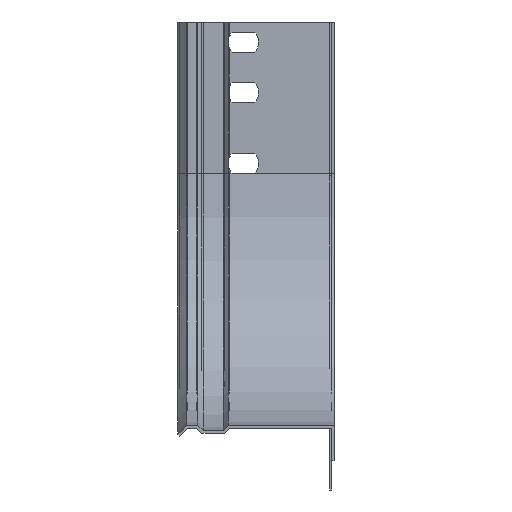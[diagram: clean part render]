
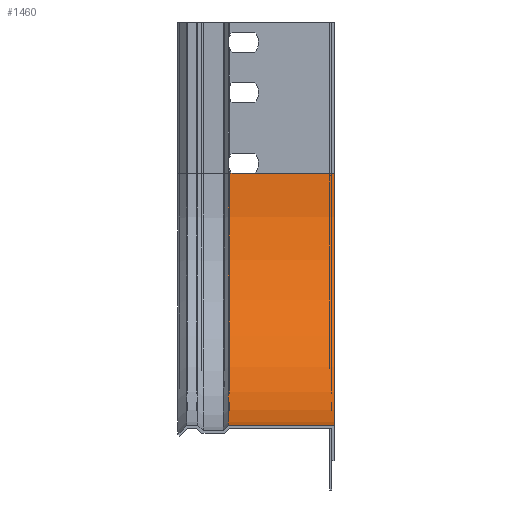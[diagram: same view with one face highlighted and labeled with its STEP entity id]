
A CAD part, left-side view. The second image highlights one B-rep face of the part: STEP entity #1460.
In plain terms, the highlighted cylindrical face has radius 100 mm (diameter 200 mm), a partial arc.
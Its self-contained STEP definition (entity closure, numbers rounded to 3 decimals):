
#50 = CYLINDRICAL_SURFACE ( 'NONE', #2700, 100. ) ;
#144 = VERTEX_POINT ( 'NONE', #671 ) ;
#168 = CARTESIAN_POINT ( 'NONE',  ( -60., 0., 160. ) ) ;
#493 = EDGE_CURVE ( 'NONE', #871, #1049, #665, .T. ) ;
#511 = CARTESIAN_POINT ( 'NONE',  ( -160., 0., 60. ) ) ;
#567 = EDGE_CURVE ( 'NONE', #3412, #1373, #4737, .T. ) ;
#588 = CARTESIAN_POINT ( 'NONE',  ( -60., 31.528, 160. ) ) ;
#665 = CIRCLE ( 'NONE', #1317, 100. ) ;
#671 = CARTESIAN_POINT ( 'NONE',  ( -160., 42., 60. ) ) ;
#764 = ORIENTED_EDGE ( 'NONE', *, *, #2026, .F. ) ;
#850 = DIRECTION ( 'NONE',  ( 0., 1., 0. ) ) ;
#871 = VERTEX_POINT ( 'NONE', #168 ) ;
#889 = CARTESIAN_POINT ( 'NONE',  ( -160., 31.528, 60. ) ) ;
#1036 = EDGE_CURVE ( 'NONE', #871, #1720, #4613, .T. ) ;
#1049 = VERTEX_POINT ( 'NONE', #3860 ) ;
#1072 = VECTOR ( 'NONE', #1257, 1000. ) ;
#1107 = ORIENTED_EDGE ( 'NONE', *, *, #1036, .F. ) ;
#1125 = FACE_OUTER_BOUND ( 'NONE', #2971, .T. ) ;
#1150 = EDGE_CURVE ( 'NONE', #1373, #144, #4436, .T. ) ;
#1203 = DIRECTION ( 'NONE',  ( 0., -1., 0. ) ) ;
#1223 = CARTESIAN_POINT ( 'NONE',  ( -60., 0., 60. ) ) ;
#1257 = DIRECTION ( 'NONE',  ( 0., 1., 0. ) ) ;
#1317 = AXIS2_PLACEMENT_3D ( 'NONE', #2754, #1203, #3139 ) ;
#1330 = VECTOR ( 'NONE', #850, 1000. ) ;
#1373 = VERTEX_POINT ( 'NONE', #2194 ) ;
#1397 = ORIENTED_EDGE ( 'NONE', *, *, #1150, .T. ) ;
#1460 = ADVANCED_FACE ( 'NONE', ( #1125 ), #50, .F. ) ;
#1563 = CIRCLE ( 'NONE', #4316, 100. ) ;
#1645 = VECTOR ( 'NONE', #2354, 1000. ) ;
#1697 = VERTEX_POINT ( 'NONE', #2071 ) ;
#1720 = VERTEX_POINT ( 'NONE', #588 ) ;
#2008 = CARTESIAN_POINT ( 'NONE',  ( -60., 42., 60. ) ) ;
#2026 = EDGE_CURVE ( 'NONE', #3070, #144, #1563, .T. ) ;
#2047 = LINE ( 'NONE', #4363, #1330 ) ;
#2071 = CARTESIAN_POINT ( 'NONE',  ( -60., 40.472, 160. ) ) ;
#2194 = CARTESIAN_POINT ( 'NONE',  ( -160., 40.472, 60. ) ) ;
#2195 = CARTESIAN_POINT ( 'NONE',  ( -60., 42., 160. ) ) ;
#2354 = DIRECTION ( 'NONE',  ( 0., 1., 0. ) ) ;
#2388 = LINE ( 'NONE', #511, #2959 ) ;
#2393 = VECTOR ( 'NONE', #4872, 1000. ) ;
#2469 = DIRECTION ( 'NONE',  ( 0., 0., -1. ) ) ;
#2613 = DIRECTION ( 'NONE',  ( 0., 1., 0. ) ) ;
#2700 = AXIS2_PLACEMENT_3D ( 'NONE', #1223, #4330, #3059 ) ;
#2754 = CARTESIAN_POINT ( 'NONE',  ( -60., 0., 60. ) ) ;
#2896 = ORIENTED_EDGE ( 'NONE', *, *, #493, .T. ) ;
#2900 = LINE ( 'NONE', #4851, #2393 ) ;
#2959 = VECTOR ( 'NONE', #3178, 1000. ) ;
#2971 = EDGE_LOOP ( 'NONE', ( #1107, #2896, #4644, #4833, #1397, #764, #3611, #4758 ) ) ;
#2985 = EDGE_CURVE ( 'NONE', #1720, #1697, #2047, .T. ) ;
#3019 = CARTESIAN_POINT ( 'NONE',  ( -60., 0., 160. ) ) ;
#3059 = DIRECTION ( 'NONE',  ( 0., 0., -1. ) ) ;
#3070 = VERTEX_POINT ( 'NONE', #2195 ) ;
#3139 = DIRECTION ( 'NONE',  ( 0., 0., -1. ) ) ;
#3178 = DIRECTION ( 'NONE',  ( 0., 1., 0. ) ) ;
#3412 = VERTEX_POINT ( 'NONE', #889 ) ;
#3611 = ORIENTED_EDGE ( 'NONE', *, *, #4292, .F. ) ;
#3860 = CARTESIAN_POINT ( 'NONE',  ( -160., 0., 60. ) ) ;
#4032 = CARTESIAN_POINT ( 'NONE',  ( -160., 0., 60. ) ) ;
#4039 = EDGE_CURVE ( 'NONE', #1049, #3412, #2388, .T. ) ;
#4292 = EDGE_CURVE ( 'NONE', #1697, #3070, #2900, .T. ) ;
#4316 = AXIS2_PLACEMENT_3D ( 'NONE', #2008, #4801, #2469 ) ;
#4330 = DIRECTION ( 'NONE',  ( 0., -1., 0. ) ) ;
#4363 = CARTESIAN_POINT ( 'NONE',  ( -60., 40.472, 160. ) ) ;
#4436 = LINE ( 'NONE', #4032, #1645 ) ;
#4613 = LINE ( 'NONE', #3019, #4968 ) ;
#4644 = ORIENTED_EDGE ( 'NONE', *, *, #4039, .T. ) ;
#4737 = LINE ( 'NONE', #4763, #1072 ) ;
#4758 = ORIENTED_EDGE ( 'NONE', *, *, #2985, .F. ) ;
#4763 = CARTESIAN_POINT ( 'NONE',  ( -160., 40.472, 60. ) ) ;
#4801 = DIRECTION ( 'NONE',  ( 0., -1., 0. ) ) ;
#4833 = ORIENTED_EDGE ( 'NONE', *, *, #567, .T. ) ;
#4851 = CARTESIAN_POINT ( 'NONE',  ( -60., 0., 160. ) ) ;
#4872 = DIRECTION ( 'NONE',  ( 0., 1., 0. ) ) ;
#4968 = VECTOR ( 'NONE', #2613, 1000. ) ;
